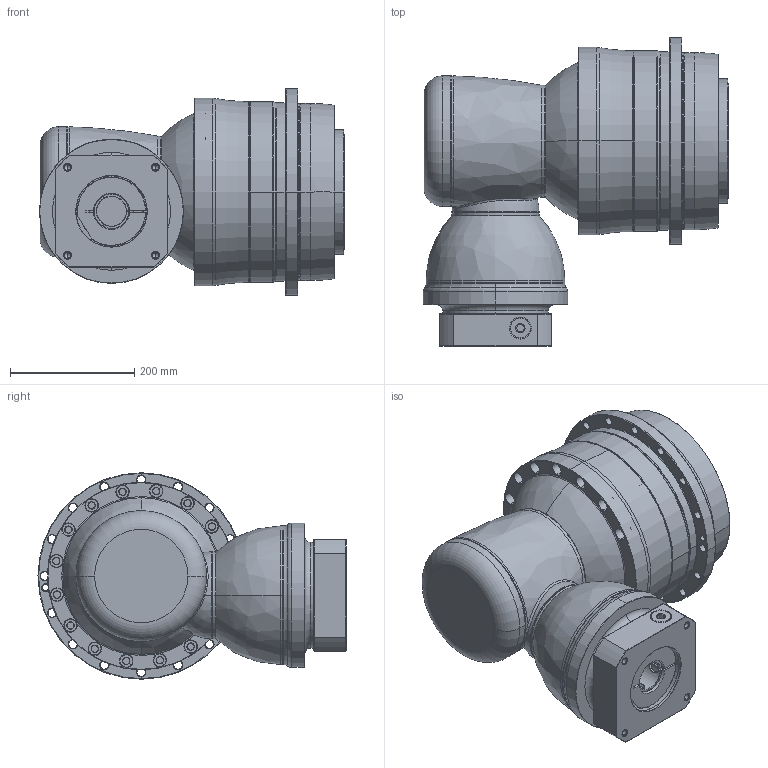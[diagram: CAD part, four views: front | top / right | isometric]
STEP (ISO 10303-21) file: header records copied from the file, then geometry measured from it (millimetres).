
FILE_DESCRIPTION((''),'2;1');
FILE_NAME('AHKA285_3ST_48-P0409B00101_ASM','2016-12-06T',('d01943'),(''),'PRO/ENGINEER BY PARAMETRIC TECHNOLOGY CORPORATION, 2008410','PRO/ENGINEER BY PARAMETRIC TECHNOLOGY CORPORATION, 2008410','');
FILE_SCHEMA(('CONFIG_CONTROL_DESIGN'));
Length unit declared in the file: millimetre
Products named in the file (12): P1008600002; P1832800001; P0278800003; P0359800003; P1315600001; P1007600001; P1318600401; P0409B00101; P0503B00016; P0912604001; 21711426021; AHKA285_3ST_48-P0409B00101_ASM
Assembly tree (11 placements, depth 2):
  AHKA285_3ST_48-P0409B00101_ASM
    P1008600002
    P1832800001
    P0278800003
    P0359800003
    P1315600001
    P1007600001
    P1318600401
    P0409B00101
    P0503B00016
    P0912604001
    21711426021
Bounding box: 491 x 495.5 x 332 mm (x, y, z)
Volume: 22848454.8 mm3; surface area: 1705228.7 mm2
Topology: 12 solids, 12 shells, 1079 faces, 2423 edges, 1398 vertices
Faces by surface type: cone 382, cylinder 376, plane 146, torus 136, bspline 37, sphere 2
Entity records: 36734 total; most frequent: CARTESIAN_POINT 12062, DIRECTION 5688, ORIENTED_EDGE 4706, AXIS2_PLACEMENT_3D 2429, EDGE_CURVE 2353, VERTEX_POINT 1398, CIRCLE 1364, EDGE_LOOP 1275
